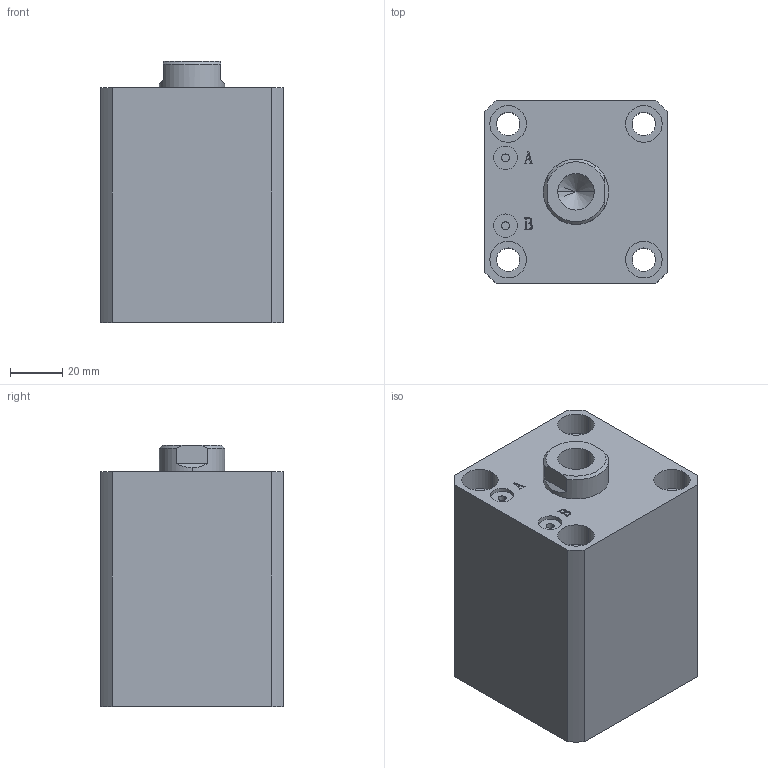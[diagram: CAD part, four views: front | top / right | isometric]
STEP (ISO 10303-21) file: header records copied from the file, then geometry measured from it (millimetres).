
FILE_DESCRIPTION (( 'STEP AP203' ), '1' );
FILE_NAME ('HTB-SDMA40-35N.STEP', '2019-10-07T11:52:26', ( '微软用户' ), ( '微软中国' ), 'SwSTEP 2.0', 'SolidWorks 2012', '' );
FILE_SCHEMA (( 'CONFIG_CONTROL_DESIGN' ));
Length unit declared in the file: millimetre
Products named in the file (3): HTB-SDMA40-35N; HTB-SDMA40-35N活塞杆; HTB-SDMA40-35掛极
Assembly tree (2 placements, depth 2):
  HTB-SDMA40-35N
    HTB-SDMA40-35掛极
    HTB-SDMA40-35N活塞杆
Bounding box: 70 x 70 x 100 mm (x, y, z)
Volume: 381968.8 mm3; surface area: 66915.4 mm2
Topology: 2 solids, 2 shells, 137 faces, 331 edges, 217 vertices
Faces by surface type: plane 65, cylinder 46, bspline 16, torus 6, cone 4
Entity records: 5074 total; most frequent: CARTESIAN_POINT 1580, ORIENTED_EDGE 658, DIRECTION 647, EDGE_CURVE 329, AXIS2_PLACEMENT_3D 232, VERTEX_POINT 217, LINE 183, VECTOR 183
